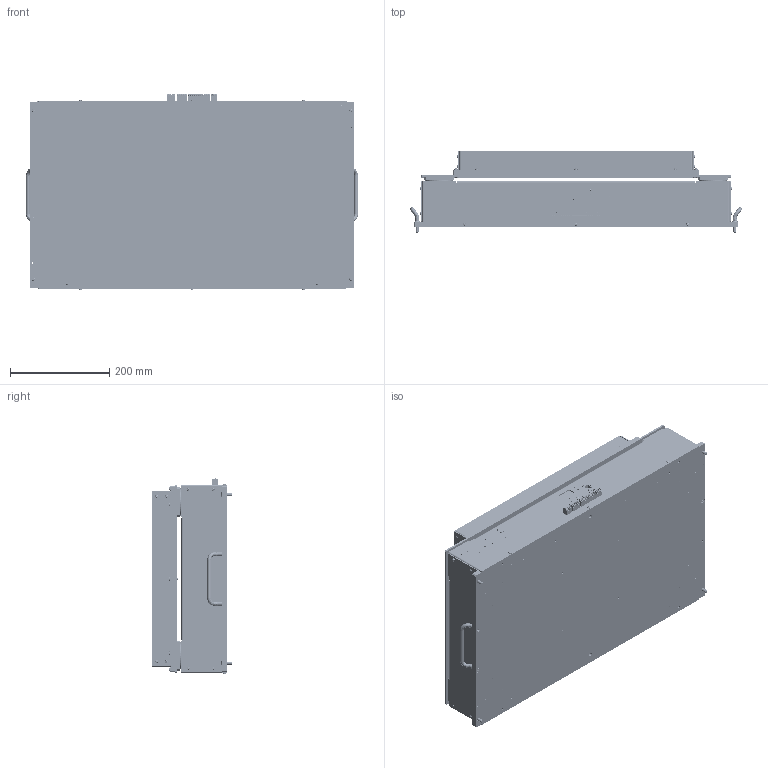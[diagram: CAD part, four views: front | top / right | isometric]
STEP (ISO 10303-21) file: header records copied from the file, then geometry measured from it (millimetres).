
FILE_DESCRIPTION (( 'STEP AP214' ), '1' );
FILE_NAME ('3-124-000092,柔性振散盘,标准,QFF-4735,500盘面,网口版,包装成品.STEP', '2025-07-18T03:10:05', ( '' ), ( '' ), 'SwSTEP 2.0', 'SolidWorks 2017', '' );
FILE_SCHEMA (( 'AUTOMOTIVE_DESIGN' ));
Length unit declared in the file: millimetre
Products named in the file (1): 3-124-000092,柔性振散盘,标准,QFF-4735,500盘面,网口版,包装成品
Bounding box: 669.3 x 162.9 x 395.85 mm (x, y, z)
Volume: 6164917.9 mm3; surface area: 2631576.5 mm2
Topology: 273 solids, 273 shells, 14358 faces, 36171 edges, 23610 vertices
Faces by surface type: plane 9743, bspline 2129, cylinder 1765, cone 405, torus 316
Entity records: 641699 total; most frequent: CARTESIAN_POINT 146592, ORIENTED_EDGE 72170, DIRECTION 60791, EDGE_CURVE 36085, VECTOR 26757, LINE 26757, VERTEX_POINT 23610, AXIS2_PLACEMENT_3D 17017
